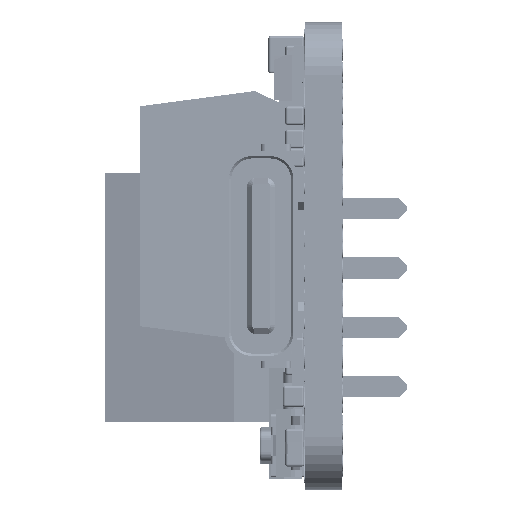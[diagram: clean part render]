
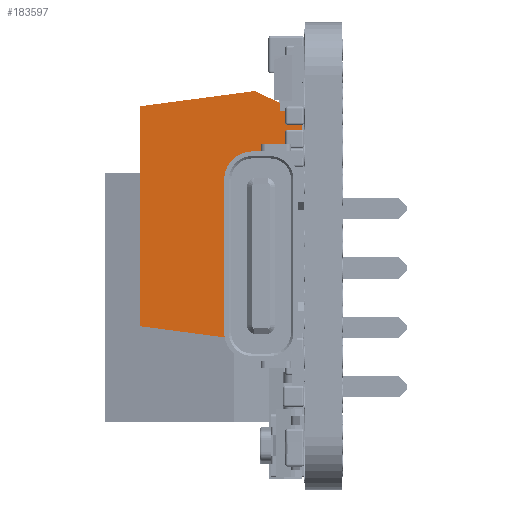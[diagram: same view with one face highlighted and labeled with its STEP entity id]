
A CAD part, left-side view. The second image highlights one B-rep face of the part: STEP entity #183597.
In plain terms, the highlighted planar face has unit normal (-1, 0, 0) as drawn and (0, 0, -1) by its records, which use the part's own axes.
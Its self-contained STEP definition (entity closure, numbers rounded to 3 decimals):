
#25502 = CARTESIAN_POINT ( 'NONE',  ( 4.4, 0.1, -6.375 ) ) ;
#25506 = DIRECTION ( 'NONE',  ( 0.429, 0.903, 0. ) ) ;
#26972 = CARTESIAN_POINT ( 'NONE',  ( -4.4, 0.1, -6.375 ) ) ;
#27019 = DIRECTION ( 'NONE',  ( 1., 0., 0. ) ) ;
#27127 = CARTESIAN_POINT ( 'NONE',  ( -4.4, 0.1, -6.375 ) ) ;
#27139 = DIRECTION ( 'NONE',  ( 0.429, -0.903, 0. ) ) ;
#27225 = CARTESIAN_POINT ( 'NONE',  ( -5.35, 2.1, -6.375 ) ) ;
#27234 = CARTESIAN_POINT ( 'NONE',  ( 5.35, 2.1, -6.375 ) ) ;
#27239 = DIRECTION ( 'NONE',  ( -0.132, -0.991, 0. ) ) ;
#27299 = DIRECTION ( 'NONE',  ( -0.132, 0.991, 0. ) ) ;
#59687 = ORIENTED_EDGE ( 'NONE', *, *, #374065, .F. ) ;
#59714 = ORIENTED_EDGE ( 'NONE', *, *, #372288, .F. ) ;
#59752 = ORIENTED_EDGE ( 'NONE', *, *, #372175, .F. ) ;
#59769 = ORIENTED_EDGE ( 'NONE', *, *, #372274, .F. ) ;
#59798 = ORIENTED_EDGE ( 'NONE', *, *, #372152, .F. ) ;
#59799 = ORIENTED_EDGE ( 'NONE', *, *, #371930, .F. ) ;
#68851 = AXIS2_PLACEMENT_3D ( 'NONE', #355080, #355144, #355166 ) ;
#112014 = LINE ( 'NONE', #115863, #112019 ) ;
#112019 = VECTOR ( 'NONE', #115826, 1000. ) ;
#115826 = DIRECTION ( 'NONE',  ( -1., 0., 0. ) ) ;
#115863 = CARTESIAN_POINT ( 'NONE',  ( 4.7, 7., -6.375 ) ) ;
#183597 = ADVANCED_FACE ( 'NONE', ( #366811 ), #355075, .F. ) ;
#190588 = VERTEX_POINT ( 'NONE', #234908 ) ;
#190610 = VERTEX_POINT ( 'NONE', #235056 ) ;
#190851 = VERTEX_POINT ( 'NONE', #235317 ) ;
#190861 = VERTEX_POINT ( 'NONE', #235467 ) ;
#190867 = VERTEX_POINT ( 'NONE', #235479 ) ;
#190923 = VERTEX_POINT ( 'NONE', #235596 ) ;
#228317 = EDGE_LOOP ( 'NONE', ( #59799, #59798, #59752, #59714, #59687, #59769 ) ) ;
#234908 = CARTESIAN_POINT ( 'NONE',  ( 4.7, 7., -6.375 ) ) ;
#235056 = CARTESIAN_POINT ( 'NONE',  ( -4.7, 7., -6.375 ) ) ;
#235317 = CARTESIAN_POINT ( 'NONE',  ( -5.35, 2.1, -6.375 ) ) ;
#235467 = CARTESIAN_POINT ( 'NONE',  ( 4.4, 0.1, -6.375 ) ) ;
#235479 = CARTESIAN_POINT ( 'NONE',  ( -4.4, 0.1, -6.375 ) ) ;
#235596 = CARTESIAN_POINT ( 'NONE',  ( 5.35, 2.1, -6.375 ) ) ;
#355075 = PLANE ( 'NONE',  #68851 ) ;
#355080 = CARTESIAN_POINT ( 'NONE',  ( 7.677, 7., -6.375 ) ) ;
#355144 = DIRECTION ( 'NONE',  ( 0., 0., 1. ) ) ;
#355166 = DIRECTION ( 'NONE',  ( 1., 0., 0. ) ) ;
#366811 = FACE_OUTER_BOUND ( 'NONE', #228317, .T. ) ;
#371930 = EDGE_CURVE ( 'NONE', #190861, #190923, #392932, .T. ) ;
#372152 = EDGE_CURVE ( 'NONE', #190867, #190861, #393018, .T. ) ;
#372175 = EDGE_CURVE ( 'NONE', #190851, #190867, #393064, .T. ) ;
#372274 = EDGE_CURVE ( 'NONE', #190923, #190588, #393180, .T. ) ;
#372288 = EDGE_CURVE ( 'NONE', #190610, #190851, #393184, .T. ) ;
#374065 = EDGE_CURVE ( 'NONE', #190588, #190610, #112014, .T. ) ;
#392932 = LINE ( 'NONE', #25502, #392942 ) ;
#392942 = VECTOR ( 'NONE', #25506, 1000. ) ;
#393018 = LINE ( 'NONE', #27127, #393075 ) ;
#393020 = VECTOR ( 'NONE', #27139, 1000. ) ;
#393064 = LINE ( 'NONE', #26972, #393020 ) ;
#393075 = VECTOR ( 'NONE', #27019, 1000. ) ;
#393131 = VECTOR ( 'NONE', #27299, 1000. ) ;
#393152 = VECTOR ( 'NONE', #27239, 1000. ) ;
#393180 = LINE ( 'NONE', #27234, #393131 ) ;
#393184 = LINE ( 'NONE', #27225, #393152 ) ;
